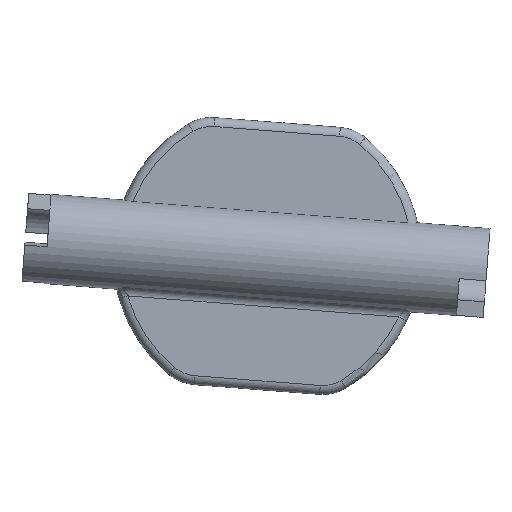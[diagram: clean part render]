
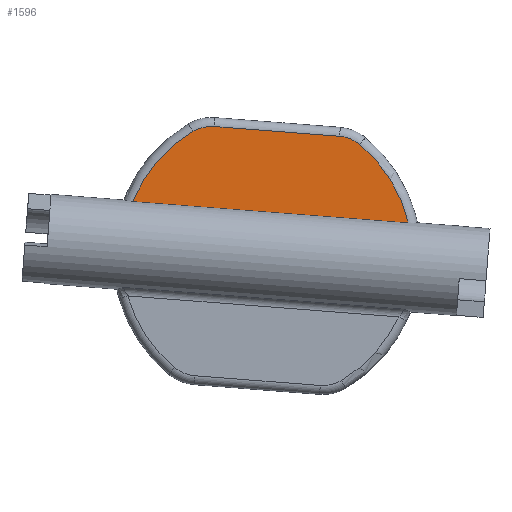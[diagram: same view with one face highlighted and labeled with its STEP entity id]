
A CAD part, front view. The second image highlights one B-rep face of the part: STEP entity #1596.
In plain terms, the highlighted planar face has unit normal (0, -1, 0).
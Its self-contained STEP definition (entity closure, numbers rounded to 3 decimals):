
#1=DIRECTION('',(0.997,0.,-0.077));
#2=VECTOR('',#1,30.925);
#3=CARTESIAN_POINT('',(1114.713,-1.,106.194));
#4=LINE('',#3,#2);
#5=CARTESIAN_POINT('',(1129.75,-1.,100.114));
#6=DIRECTION('',(0.,1.,0.));
#7=DIRECTION('',(-0.927,0.,0.375));
#8=AXIS2_PLACEMENT_3D('',#5,#6,#7);
#10=CARTESIAN_POINT('',(1123.493,-1.,110.611));
#11=DIRECTION('',(0.,1.,0.));
#12=DIRECTION('',(-0.512,0.,0.859));
#13=AXIS2_PLACEMENT_3D('',#10,#11,#12);
#15=DIRECTION('',(0.997,0.,-0.077));
#16=VECTOR('',#15,14.1);
#17=CARTESIAN_POINT('',(1123.802,-1.,114.599));
#18=LINE('',#17,#16);
#19=CARTESIAN_POINT('',(1137.55,-1.,109.521));
#20=DIRECTION('',(0.,1.,0.));
#21=DIRECTION('',(0.077,0.,0.997));
#22=AXIS2_PLACEMENT_3D('',#19,#20,#21);
#24=CARTESIAN_POINT('',(1129.75,-1.,100.114));
#25=DIRECTION('',(0.,1.,0.));
#26=DIRECTION('',(0.638,0.,0.77));
#27=AXIS2_PLACEMENT_3D('',#24,#25,#26);
#1389=CARTESIAN_POINT('',(1114.713,-1.,106.194));
#1390=CARTESIAN_POINT('',(1145.545,-1.,103.803));
#1391=VERTEX_POINT('',#1389);
#1392=VERTEX_POINT('',#1390);
#1569=CARTESIAN_POINT('',(1137.86,-1.,113.509));
#1570=CARTESIAN_POINT('',(1140.104,-1.,112.6));
#1571=VERTEX_POINT('',#1569);
#1572=VERTEX_POINT('',#1570);
#1573=CARTESIAN_POINT('',(1121.445,-1.,114.047));
#1574=VERTEX_POINT('',#1573);
#1575=CARTESIAN_POINT('',(1123.802,-1.,114.599));
#1576=VERTEX_POINT('',#1575);
#1577=CARTESIAN_POINT('',(0.,-1.,0.));
#1578=DIRECTION('',(0.,1.,0.));
#1579=DIRECTION('',(1.,0.,0.));
#1580=AXIS2_PLACEMENT_3D('',#1577,#1578,#1579);
#1581=PLANE('',#1580);
#1583=ORIENTED_EDGE('',*,*,#1582,.F.);
#1585=ORIENTED_EDGE('',*,*,#1584,.T.);
#1587=ORIENTED_EDGE('',*,*,#1586,.T.);
#1589=ORIENTED_EDGE('',*,*,#1588,.T.);
#1591=ORIENTED_EDGE('',*,*,#1590,.T.);
#1593=ORIENTED_EDGE('',*,*,#1592,.T.);
#1594=EDGE_LOOP('',(#1583,#1585,#1587,#1589,#1591,#1593));
#1595=FACE_OUTER_BOUND('',#1594,.F.);
#1596=ADVANCED_FACE('',(#1595),#1581,.F.);
#9=CIRCLE('',#8,16.22);
#14=CIRCLE('',#13,4.);
#23=CIRCLE('',#22,4.);
#28=CIRCLE('',#27,16.22);
#1582=EDGE_CURVE('',#1391,#1392,#4,.T.);
#1584=EDGE_CURVE('',#1391,#1574,#9,.T.);
#1586=EDGE_CURVE('',#1574,#1576,#14,.T.);
#1588=EDGE_CURVE('',#1576,#1571,#18,.T.);
#1590=EDGE_CURVE('',#1571,#1572,#23,.T.);
#1592=EDGE_CURVE('',#1572,#1392,#28,.T.);
